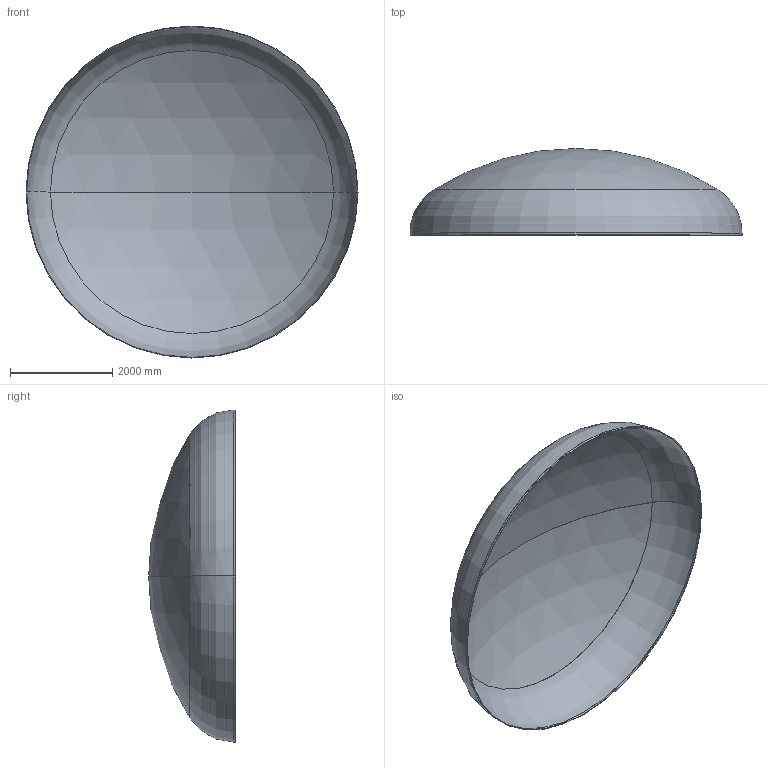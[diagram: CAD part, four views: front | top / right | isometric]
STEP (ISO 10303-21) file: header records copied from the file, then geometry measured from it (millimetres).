
FILE_DESCRIPTION (( 'STEP AP203' ), '1' );
FILE_NAME ('DIN 28013 Korbbogenform_-_Boden DIN 28013 - 6500 x 40 - I - s=11.step', '2016-07-04T10:39:50', ( '' ), ( '' ), 'SwSTEP 2.0', 'SolidWorks 2013', '' );
FILE_SCHEMA (( 'CONFIG_CONTROL_DESIGN' ));
Length unit declared in the file: millimetre
Products named in the file (1): DIN 28013 Korbbogenform_-_Boden DIN 28013 - 6500 x 40 - I - s=11
Bounding box: 6500 x 1697.57 x 6500 mm (x, y, z)
Volume: 513330815.7 mm3; surface area: 93557334.1 mm2
Topology: 1 solids, 1 shells, 13 faces, 24 edges, 14 vertices
Faces by surface type: torus 4, cylinder 4, sphere 4, plane 1
Entity records: 407 total; most frequent: DIRECTION 72, CARTESIAN_POINT 52, ORIENTED_EDGE 48, AXIS2_PLACEMENT_3D 34, EDGE_CURVE 24, CIRCLE 20, VERTEX_POINT 14, EDGE_LOOP 14
